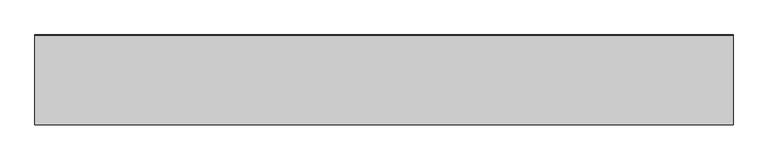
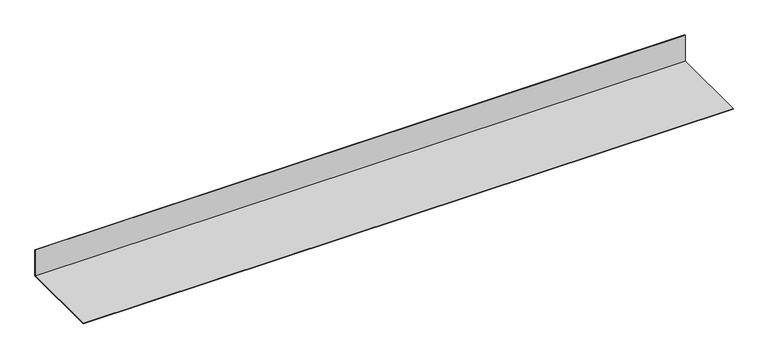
"""IFC4 building model written with IfcOpenShell, lengths in millimetres: proxy geometry, Оцинкованный уголок : 150х50х0.8."""

from ifc_helpers import new_model, si_unit, frame, origin, place, context, project, spatial, polyline, outline, extrude, source, transform, mapped, element, save


def generic_models_235948e7(model_context):
    return source(origin(), model_context, "Body", "SweptSolid", [
        extrude(outline(polyline([(0.0, 50.0), (0.0, 0.0), (-150.0, 0.0), (-150.0, 0.8), (-0.8, 0.8), (-0.8, 50.0), (0.0, 50.0)])), frame((0.0, 0.0, 0.0), z_axis=(1.0, 0.0, 0.0), x_axis=(0.0, 1.0, 0.0)), (0.0, 0.0, 1.0), 1167.0),
    ])


if __name__ == "__main__":
    model = new_model("IFC4")
    model_context = context("Model", 3, world=origin())
    ifc_project = project(units=[si_unit("LENGTHUNIT", "METRE", prefix="MILLI")], contexts=[model_context])
    site = spatial("IfcSite", under=ifc_project)
    building = spatial("IfcBuilding", under=site)
    placement = place(None, origin())
    generic_models_shape = generic_models_235948e7(model_context)
    element("IfcBuildingElementProxy", 1, Name="Оцинкованный уголок : 150х50х0.8", ObjectType="Оцинкованный уголок : 150х50х0.8", at=placement, inside=building, context=model_context, shape_type="MappedRepresentation", body=[
        mapped(generic_models_shape, transform((0.0, 0.0, 0.0), x_axis=(1.0, 0.0, 0.0), y_axis=(0.0, 1.0, 0.0), z_axis=(0.0, 0.0, 1.0))),
    ])
    save(model, "model.ifc")
